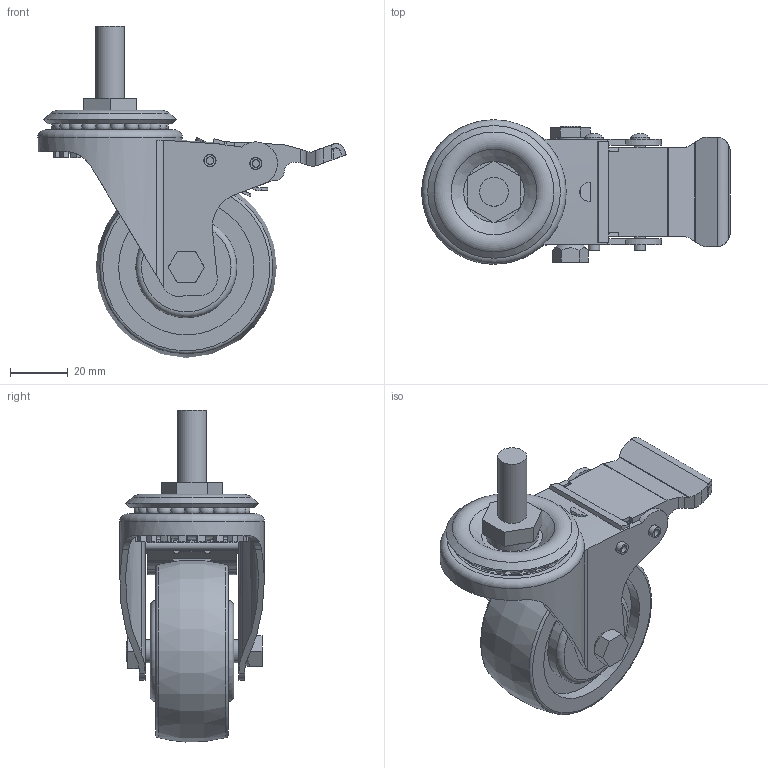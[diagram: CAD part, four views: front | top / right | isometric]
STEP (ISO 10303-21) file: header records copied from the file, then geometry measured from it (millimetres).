
FILE_DESCRIPTION(/* description */ (''),/* implementation_level */ '2;1');
FILE_NAME(/* name */ '15A10_2.5_F.stp',/* time_stamp */ '2022-10-06T14:12:10+08:00',/* author */ (''),/* organization */ (''),/* preprocessor_version */ 'ST-DEVELOPER v14',/* originating_system */ 'SIEMENS PLM Software NX 8.0',/* authorisation */ '');
FILE_SCHEMA (('AUTOMOTIVE_DESIGN { 1 0 10303 214 3 1 1 1 }'));
Length unit declared in the file: millimetre
Products named in the file (1): 15A10_2.5_F
Bounding box: 106.77 x 50 x 114.94 mm (x, y, z)
Volume: 99303 mm3; surface area: 52260.9 mm2
Topology: 1 solids, 3 shells, 770 faces, 2229 edges, 1448 vertices
Faces by surface type: plane 387, cylinder 205, sphere 66, torus 65, bspline 20, cone 19, extrusion 8
Full cylindrical faces by diameter (mm): 2.6 x2, 4 x2, 4.2 x6, 6.5 x2, 8 x3, 8.2 x1, 8.3 x2, 10 x2, 10.2 x1, 10.5 x2, 10.6 x1, 12 x2, 17 x1, 18 x1, 23 x3, 29.5 x2, 34 x2, 35 x2, 46 x1, 46.893 x2, 50 x1
Entity records: 29684 total; most frequent: CARTESIAN_POINT 11095, ORIENTED_EDGE 4014, DIRECTION 3556, EDGE_CURVE 2007, AXIS2_PLACEMENT_3D 1369, VERTEX_POINT 1351, EDGE_LOOP 944, VECTOR 818
